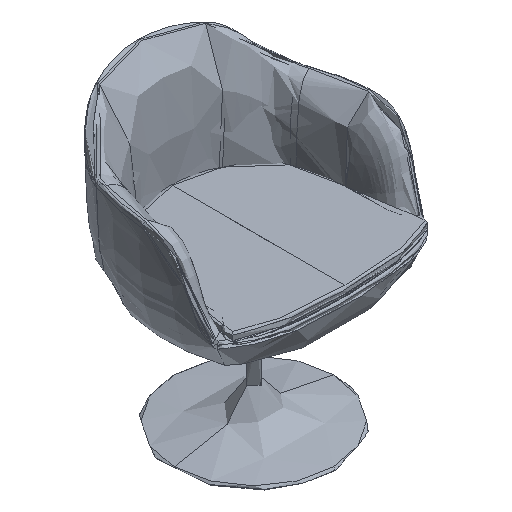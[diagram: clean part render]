
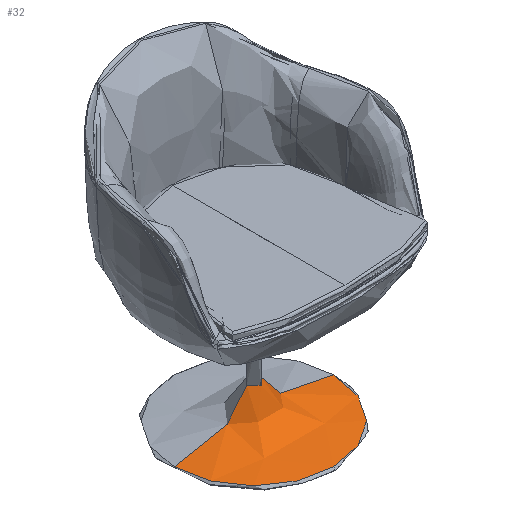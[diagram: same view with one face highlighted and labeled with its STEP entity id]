
A CAD part, isometric view. The second image highlights one B-rep face of the part: STEP entity #32.
In plain terms, the highlighted free-form (B-spline) face has degree [3, 3] with [4, 4] control points.
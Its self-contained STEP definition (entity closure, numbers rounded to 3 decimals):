
#32=ADVANCED_FACE('',(#181),#2383,.T.);
#181=FACE_OUTER_BOUND('',#330,.T.);
#330=EDGE_LOOP('',(#491,#492,#493,#494,#495,#496));
#491=ORIENTED_EDGE('',*,*,#1251,.F.);
#492=ORIENTED_EDGE('',*,*,#1249,.F.);
#493=ORIENTED_EDGE('',*,*,#1250,.F.);
#494=ORIENTED_EDGE('',*,*,#1238,.F.);
#495=ORIENTED_EDGE('',*,*,#1253,.F.);
#496=ORIENTED_EDGE('',*,*,#1247,.F.);
#1238=EDGE_CURVE('',#2074,#2075,#1928,.T.);
#1247=EDGE_CURVE('',#2077,#2084,#1937,.T.);
#1249=EDGE_CURVE('',#2085,#2076,#1939,.T.);
#1250=EDGE_CURVE('',#2075,#2085,#1940,.T.);
#1251=EDGE_CURVE('',#2076,#2077,#1941,.T.);
#1253=EDGE_CURVE('',#2084,#2074,#1943,.T.);
#1928=(
BOUNDED_CURVE()
B_SPLINE_CURVE(3,(#5549,#5550,#5551,#5552),.UNSPECIFIED.,.F.,.F.)
B_SPLINE_CURVE_WITH_KNOTS((4,4),(0.,497.785),
 .UNSPECIFIED.)
CURVE()
GEOMETRIC_REPRESENTATION_ITEM()
RATIONAL_B_SPLINE_CURVE((1.,1.,1.,1.))
REPRESENTATION_ITEM('')
);
#1937=(
BOUNDED_CURVE()
B_SPLINE_CURVE(2,(#5581,#5582,#5583),.UNSPECIFIED.,.F.,.F.)
B_SPLINE_CURVE_WITH_KNOTS((3,3),(0.,420.),.UNSPECIFIED.)
CURVE()
GEOMETRIC_REPRESENTATION_ITEM()
RATIONAL_B_SPLINE_CURVE((1.,0.707,1.))
REPRESENTATION_ITEM('')
);
#1939=(
BOUNDED_CURVE()
B_SPLINE_CURVE(2,(#5587,#5588,#5589),.UNSPECIFIED.,.F.,.F.)
B_SPLINE_CURVE_WITH_KNOTS((3,3),(0.,38.),.UNSPECIFIED.)
CURVE()
GEOMETRIC_REPRESENTATION_ITEM()
RATIONAL_B_SPLINE_CURVE((1.,0.707,1.))
REPRESENTATION_ITEM('')
);
#1940=(
BOUNDED_CURVE()
B_SPLINE_CURVE(2,(#5590,#5591,#5592),.UNSPECIFIED.,.F.,.F.)
B_SPLINE_CURVE_WITH_KNOTS((3,3),(0.,38.),.UNSPECIFIED.)
CURVE()
GEOMETRIC_REPRESENTATION_ITEM()
RATIONAL_B_SPLINE_CURVE((1.,0.707,1.))
REPRESENTATION_ITEM('')
);
#1941=(
BOUNDED_CURVE()
B_SPLINE_CURVE(3,(#5593,#5594,#5595,#5596),.UNSPECIFIED.,.F.,.F.)
B_SPLINE_CURVE_WITH_KNOTS((4,4),(-497.785,0.),
 .UNSPECIFIED.)
CURVE()
GEOMETRIC_REPRESENTATION_ITEM()
RATIONAL_B_SPLINE_CURVE((1.,1.,1.,1.))
REPRESENTATION_ITEM('')
);
#1943=(
BOUNDED_CURVE()
B_SPLINE_CURVE(2,(#5600,#5601,#5602),.UNSPECIFIED.,.F.,.F.)
B_SPLINE_CURVE_WITH_KNOTS((3,3),(0.,420.),.UNSPECIFIED.)
CURVE()
GEOMETRIC_REPRESENTATION_ITEM()
RATIONAL_B_SPLINE_CURVE((1.,0.707,1.))
REPRESENTATION_ITEM('')
);
#2074=VERTEX_POINT('',#5530);
#2075=VERTEX_POINT('',#5531);
#2076=VERTEX_POINT('',#5532);
#2077=VERTEX_POINT('',#5533);
#2084=VERTEX_POINT('',#5540);
#2085=VERTEX_POINT('',#5541);
#2383=(
BOUNDED_SURFACE()
B_SPLINE_SURFACE(3,3,((#2683,#2684,#2685,#2686),(#2687,#2688,#2689,#2690),
(#2691,#2692,#2693,#2694),(#2695,#2696,#2697,#2698)),.UNSPECIFIED.,.F.,
 .F.,.F.)
B_SPLINE_SURFACE_WITH_KNOTS((4,4),(4,4),(0.,497.785),
(0.,1260.),.UNSPECIFIED.)
GEOMETRIC_REPRESENTATION_ITEM()
RATIONAL_B_SPLINE_SURFACE(((1.,0.333,0.333,1.),
(1.,0.333,0.333,1.),(1.,0.333,0.333,
1.),(1.,0.333,0.333,1.)))
REPRESENTATION_ITEM('')
SURFACE()
);
#2683=CARTESIAN_POINT('',(210.,250.014,10.015));
#2684=CARTESIAN_POINT('',(210.,-169.986,10.015));
#2685=CARTESIAN_POINT('',(-210.,-169.986,10.015));
#2686=CARTESIAN_POINT('',(-210.,250.014,10.015));
#2687=CARTESIAN_POINT('',(150.,250.014,10.015));
#2688=CARTESIAN_POINT('',(150.,-49.986,10.015));
#2689=CARTESIAN_POINT('',(-150.,-49.986,10.015));
#2690=CARTESIAN_POINT('',(-150.,250.014,10.015));
#2691=CARTESIAN_POINT('',(19.,250.014,30.));
#2692=CARTESIAN_POINT('',(19.,212.014,30.));
#2693=CARTESIAN_POINT('',(-19.,212.014,30.));
#2694=CARTESIAN_POINT('',(-19.,250.014,30.));
#2695=CARTESIAN_POINT('',(19.,250.014,100.015));
#2696=CARTESIAN_POINT('',(19.,212.014,100.015));
#2697=CARTESIAN_POINT('',(-19.,212.014,100.015));
#2698=CARTESIAN_POINT('',(-19.,250.014,100.015));
#5530=CARTESIAN_POINT('',(-210.,250.014,10.015));
#5531=CARTESIAN_POINT('',(-19.,250.014,100.015));
#5532=CARTESIAN_POINT('',(19.,250.014,100.015));
#5533=CARTESIAN_POINT('',(210.,250.014,10.015));
#5540=CARTESIAN_POINT('',(0.,40.014,10.015));
#5541=CARTESIAN_POINT('',(0.,231.014,100.015));
#5549=CARTESIAN_POINT('',(-210.,250.014,10.015));
#5550=CARTESIAN_POINT('',(-150.,250.014,10.015));
#5551=CARTESIAN_POINT('',(-19.,250.014,30.));
#5552=CARTESIAN_POINT('',(-19.,250.014,100.015));
#5581=CARTESIAN_POINT('',(210.,250.014,10.015));
#5582=CARTESIAN_POINT('',(210.,40.014,10.015));
#5583=CARTESIAN_POINT('',(0.,40.014,10.015));
#5587=CARTESIAN_POINT('',(0.,231.014,100.015));
#5588=CARTESIAN_POINT('',(19.,231.014,100.015));
#5589=CARTESIAN_POINT('',(19.,250.014,100.015));
#5590=CARTESIAN_POINT('',(-19.,250.014,100.015));
#5591=CARTESIAN_POINT('',(-19.,231.014,100.015));
#5592=CARTESIAN_POINT('',(0.,231.014,100.015));
#5593=CARTESIAN_POINT('',(19.,250.014,100.015));
#5594=CARTESIAN_POINT('',(19.,250.014,30.));
#5595=CARTESIAN_POINT('',(150.,250.014,10.015));
#5596=CARTESIAN_POINT('',(210.,250.014,10.015));
#5600=CARTESIAN_POINT('',(0.,40.014,10.015));
#5601=CARTESIAN_POINT('',(-210.,40.014,10.015));
#5602=CARTESIAN_POINT('',(-210.,250.014,10.015));
